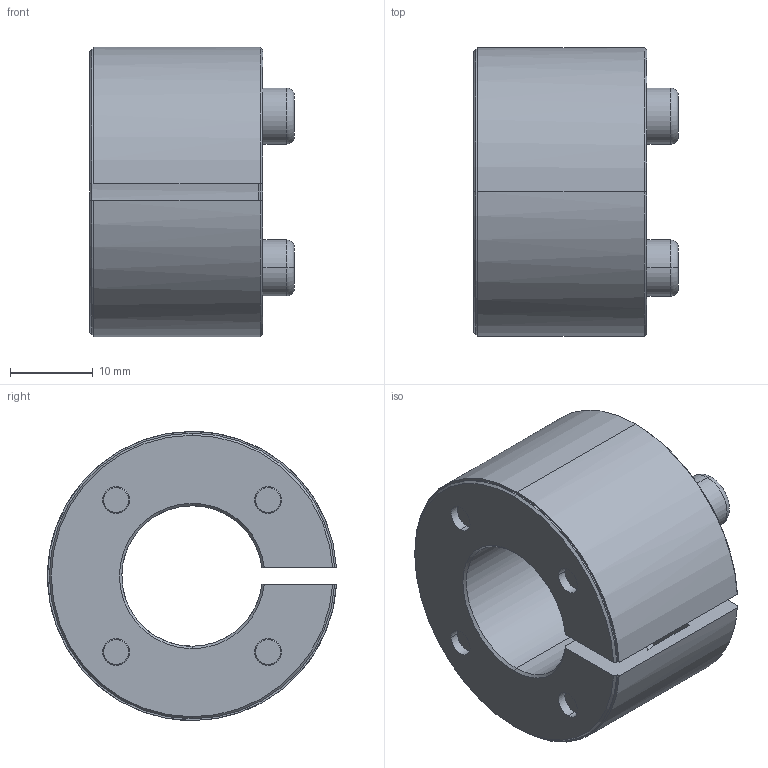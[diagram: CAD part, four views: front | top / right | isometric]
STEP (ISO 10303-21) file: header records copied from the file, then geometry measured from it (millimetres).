
FILE_DESCRIPTION (( 'STEP AP214' ), '1' );
FILE_NAME ('SAPL-E-17X35.STEP', '2024-07-12T02:07:11', ( '决扁浅何厘' ), ( '' ), 'SwSTEP 2.0', 'SolidWorks 2024', '' );
FILE_SCHEMA (( 'AUTOMOTIVE_DESIGN' ));
Length unit declared in the file: millimetre
Products named in the file (1): SAPL-E-17X35
Bounding box: 24.81 x 34.97 x 35 mm (x, y, z)
Volume: 12236.2 mm3; surface area: 8686 mm2
Topology: 1 solids, 1 shells, 139 faces, 341 edges, 220 vertices
Faces by surface type: cylinder 48, plane 48, cone 35, torus 8
Entity records: 4287 total; most frequent: CARTESIAN_POINT 869, DIRECTION 743, ORIENTED_EDGE 682, EDGE_CURVE 341, AXIS2_PLACEMENT_3D 295, VERTEX_POINT 220, EDGE_LOOP 169, CIRCLE 155
